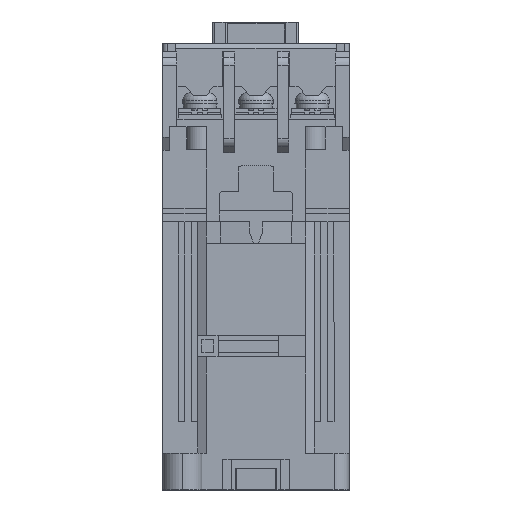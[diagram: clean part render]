
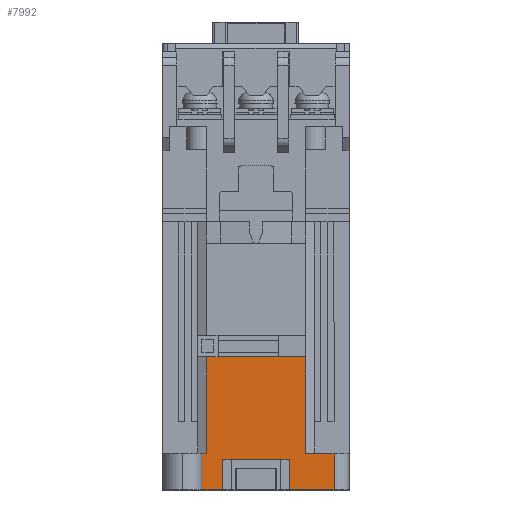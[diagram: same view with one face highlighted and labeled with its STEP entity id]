
A CAD part, front view. The second image highlights one B-rep face of the part: STEP entity #7992.
In plain terms, the highlighted planar face has unit normal (0, -1, 0).
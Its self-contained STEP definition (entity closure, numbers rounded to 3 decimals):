
#10 = CARTESIAN_POINT ( 'NONE',  ( -7.7, -30.5, -5. ) ) ;
#363 = DIRECTION ( 'NONE',  ( -1., 0., 0. ) ) ;
#1075 = VECTOR ( 'NONE', #29824, 1000. ) ;
#1852 = VERTEX_POINT ( 'NONE', #33775 ) ;
#2097 = CARTESIAN_POINT ( 'NONE',  ( -5.7, -30.5, 2. ) ) ;
#2938 = EDGE_CURVE ( 'NONE', #29891, #20285, #30988, .T. ) ;
#3646 = VERTEX_POINT ( 'NONE', #31327 ) ;
#3919 = CARTESIAN_POINT ( 'NONE',  ( 11.5, -30.5, 25.7 ) ) ;
#4724 = DIRECTION ( 'NONE',  ( 1., 0., 0. ) ) ;
#5257 = VECTOR ( 'NONE', #6543, 1000. ) ;
#5982 = LINE ( 'NONE', #17485, #33842 ) ;
#6077 = VERTEX_POINT ( 'NONE', #18169 ) ;
#6197 = VECTOR ( 'NONE', #32353, 1000. ) ;
#6215 = VECTOR ( 'NONE', #18320, 1000. ) ;
#6543 = DIRECTION ( 'NONE',  ( -1., 0., 0. ) ) ;
#6778 = DIRECTION ( 'NONE',  ( 0., 0., 1. ) ) ;
#6835 = VECTOR ( 'NONE', #4724, 1000. ) ;
#7066 = EDGE_LOOP ( 'NONE', ( #15108, #25511, #27519, #14330, #28676, #10921, #10429, #19952, #33824, #14869, #10775, #31518, #34923, #29050 ) ) ;
#7565 = LINE ( 'NONE', #21663, #13865 ) ;
#7827 = VECTOR ( 'NONE', #18361, 1000. ) ;
#7992 = ADVANCED_FACE ( 'NONE', ( #28513 ), #19003, .T. ) ;
#8310 = DIRECTION ( 'NONE',  ( 0., 0., -1. ) ) ;
#8474 = CARTESIAN_POINT ( 'NONE',  ( 5.7, -30.5, 2. ) ) ;
#9477 = VECTOR ( 'NONE', #33629, 1000. ) ;
#9944 = LINE ( 'NONE', #27074, #1075 ) ;
#9993 = CARTESIAN_POINT ( 'NONE',  ( -12.5, -30.5, -5. ) ) ;
#10327 = EDGE_CURVE ( 'NONE', #23274, #29164, #20501, .T. ) ;
#10429 = ORIENTED_EDGE ( 'NONE', *, *, #29921, .F. ) ;
#10775 = ORIENTED_EDGE ( 'NONE', *, *, #2938, .F. ) ;
#10921 = ORIENTED_EDGE ( 'NONE', *, *, #25638, .T. ) ;
#11603 = EDGE_CURVE ( 'NONE', #15907, #19967, #19566, .T. ) ;
#12096 = VECTOR ( 'NONE', #21090, 1000. ) ;
#12529 = CARTESIAN_POINT ( 'NONE',  ( -12.5, -30.5, 3.5 ) ) ;
#13139 = LINE ( 'NONE', #20850, #6835 ) ;
#13490 = EDGE_CURVE ( 'NONE', #1852, #19967, #13139, .T. ) ;
#13865 = VECTOR ( 'NONE', #363, 1000. ) ;
#14330 = ORIENTED_EDGE ( 'NONE', *, *, #10327, .T. ) ;
#14869 = ORIENTED_EDGE ( 'NONE', *, *, #22790, .F. ) ;
#14990 = CARTESIAN_POINT ( 'NONE',  ( -7.7, -30.5, -5. ) ) ;
#15069 = CARTESIAN_POINT ( 'NONE',  ( -11.5, -30.5, 3.5 ) ) ;
#15108 = ORIENTED_EDGE ( 'NONE', *, *, #11603, .F. ) ;
#15208 = DIRECTION ( 'NONE',  ( 1., 0., 0. ) ) ;
#15222 = EDGE_CURVE ( 'NONE', #6077, #15907, #26412, .T. ) ;
#15665 = CARTESIAN_POINT ( 'NONE',  ( 7.7, -30.5, -5. ) ) ;
#15907 = VERTEX_POINT ( 'NONE', #24005 ) ;
#16298 = CARTESIAN_POINT ( 'NONE',  ( -21.5, -30.5, 3.5 ) ) ;
#16442 = AXIS2_PLACEMENT_3D ( 'NONE', #16298, #24446, #8310 ) ;
#16961 = VERTEX_POINT ( 'NONE', #3919 ) ;
#17485 = CARTESIAN_POINT ( 'NONE',  ( 11.5, -30.5, 3.5 ) ) ;
#17692 = VECTOR ( 'NONE', #25825, 1000. ) ;
#18169 = CARTESIAN_POINT ( 'NONE',  ( 7.7, -30.5, -5. ) ) ;
#18320 = DIRECTION ( 'NONE',  ( -1., 0., 0. ) ) ;
#18361 = DIRECTION ( 'NONE',  ( 0., 0., 1. ) ) ;
#18711 = LINE ( 'NONE', #31426, #33105 ) ;
#18731 = CARTESIAN_POINT ( 'NONE',  ( 18., -30.5, 3.5 ) ) ;
#18835 = DIRECTION ( 'NONE',  ( 0., 0., -1. ) ) ;
#19003 = PLANE ( 'NONE',  #16442 ) ;
#19224 = LINE ( 'NONE', #10, #26403 ) ;
#19566 = LINE ( 'NONE', #25400, #5257 ) ;
#19952 = ORIENTED_EDGE ( 'NONE', *, *, #26330, .T. ) ;
#19967 = VERTEX_POINT ( 'NONE', #8474 ) ;
#20285 = VERTEX_POINT ( 'NONE', #9993 ) ;
#20501 = LINE ( 'NONE', #18731, #6197 ) ;
#20814 = CARTESIAN_POINT ( 'NONE',  ( -7.7, -30.5, 2. ) ) ;
#20850 = CARTESIAN_POINT ( 'NONE',  ( -21.5, -30.5, 2. ) ) ;
#21090 = DIRECTION ( 'NONE',  ( 0., 0., 1. ) ) ;
#21373 = LINE ( 'NONE', #2097, #6215 ) ;
#21663 = CARTESIAN_POINT ( 'NONE',  ( -12.5, -30.5, -5. ) ) ;
#22574 = LINE ( 'NONE', #12529, #28949 ) ;
#22790 = EDGE_CURVE ( 'NONE', #20285, #25104, #27637, .T. ) ;
#22978 = EDGE_CURVE ( 'NONE', #34030, #29164, #9944, .T. ) ;
#23274 = VERTEX_POINT ( 'NONE', #30990 ) ;
#24005 = CARTESIAN_POINT ( 'NONE',  ( 7.7, -30.5, 2. ) ) ;
#24446 = DIRECTION ( 'NONE',  ( 0., -1., 0. ) ) ;
#24883 = LINE ( 'NONE', #15069, #17692 ) ;
#25104 = VERTEX_POINT ( 'NONE', #34194 ) ;
#25165 = VERTEX_POINT ( 'NONE', #20814 ) ;
#25400 = CARTESIAN_POINT ( 'NONE',  ( 5.7, -30.5, 2. ) ) ;
#25511 = ORIENTED_EDGE ( 'NONE', *, *, #15222, .F. ) ;
#25638 = EDGE_CURVE ( 'NONE', #34030, #16961, #5982, .T. ) ;
#25825 = DIRECTION ( 'NONE',  ( 0., 0., -1. ) ) ;
#26330 = EDGE_CURVE ( 'NONE', #28307, #3646, #24883, .T. ) ;
#26403 = VECTOR ( 'NONE', #18835, 1000. ) ;
#26412 = LINE ( 'NONE', #15665, #12096 ) ;
#26434 = CARTESIAN_POINT ( 'NONE',  ( -11.5, -30.5, 25.7 ) ) ;
#26628 = EDGE_CURVE ( 'NONE', #23274, #6077, #7565, .T. ) ;
#27074 = CARTESIAN_POINT ( 'NONE',  ( -12.5, -30.5, 3.5 ) ) ;
#27519 = ORIENTED_EDGE ( 'NONE', *, *, #26628, .F. ) ;
#27637 = LINE ( 'NONE', #34575, #7827 ) ;
#27654 = EDGE_CURVE ( 'NONE', #1852, #25165, #21373, .T. ) ;
#28182 = CARTESIAN_POINT ( 'NONE',  ( -12.5, -30.5, -5. ) ) ;
#28204 = EDGE_CURVE ( 'NONE', #25104, #3646, #22574, .T. ) ;
#28307 = VERTEX_POINT ( 'NONE', #26434 ) ;
#28513 = FACE_OUTER_BOUND ( 'NONE', #7066, .T. ) ;
#28676 = ORIENTED_EDGE ( 'NONE', *, *, #22978, .F. ) ;
#28948 = EDGE_CURVE ( 'NONE', #25165, #29891, #19224, .T. ) ;
#28949 = VECTOR ( 'NONE', #34137, 1000. ) ;
#29050 = ORIENTED_EDGE ( 'NONE', *, *, #13490, .T. ) ;
#29164 = VERTEX_POINT ( 'NONE', #33370 ) ;
#29824 = DIRECTION ( 'NONE',  ( 1., 0., 0. ) ) ;
#29891 = VERTEX_POINT ( 'NONE', #14990 ) ;
#29921 = EDGE_CURVE ( 'NONE', #28307, #16961, #18711, .T. ) ;
#30988 = LINE ( 'NONE', #28182, #9477 ) ;
#30990 = CARTESIAN_POINT ( 'NONE',  ( 18., -30.5, -5. ) ) ;
#31327 = CARTESIAN_POINT ( 'NONE',  ( -11.5, -30.5, 3.5 ) ) ;
#31426 = CARTESIAN_POINT ( 'NONE',  ( -21.5, -30.5, 25.7 ) ) ;
#31518 = ORIENTED_EDGE ( 'NONE', *, *, #28948, .F. ) ;
#32353 = DIRECTION ( 'NONE',  ( 0., 0., 1. ) ) ;
#32626 = CARTESIAN_POINT ( 'NONE',  ( 11.5, -30.5, 3.5 ) ) ;
#33105 = VECTOR ( 'NONE', #15208, 1000. ) ;
#33370 = CARTESIAN_POINT ( 'NONE',  ( 18., -30.5, 3.5 ) ) ;
#33629 = DIRECTION ( 'NONE',  ( -1., 0., 0. ) ) ;
#33775 = CARTESIAN_POINT ( 'NONE',  ( -5.7, -30.5, 2. ) ) ;
#33824 = ORIENTED_EDGE ( 'NONE', *, *, #28204, .F. ) ;
#33842 = VECTOR ( 'NONE', #6778, 1000. ) ;
#34030 = VERTEX_POINT ( 'NONE', #32626 ) ;
#34137 = DIRECTION ( 'NONE',  ( 1., 0., 0. ) ) ;
#34194 = CARTESIAN_POINT ( 'NONE',  ( -12.5, -30.5, 3.5 ) ) ;
#34575 = CARTESIAN_POINT ( 'NONE',  ( -12.5, -30.5, 3.5 ) ) ;
#34923 = ORIENTED_EDGE ( 'NONE', *, *, #27654, .F. ) ;
